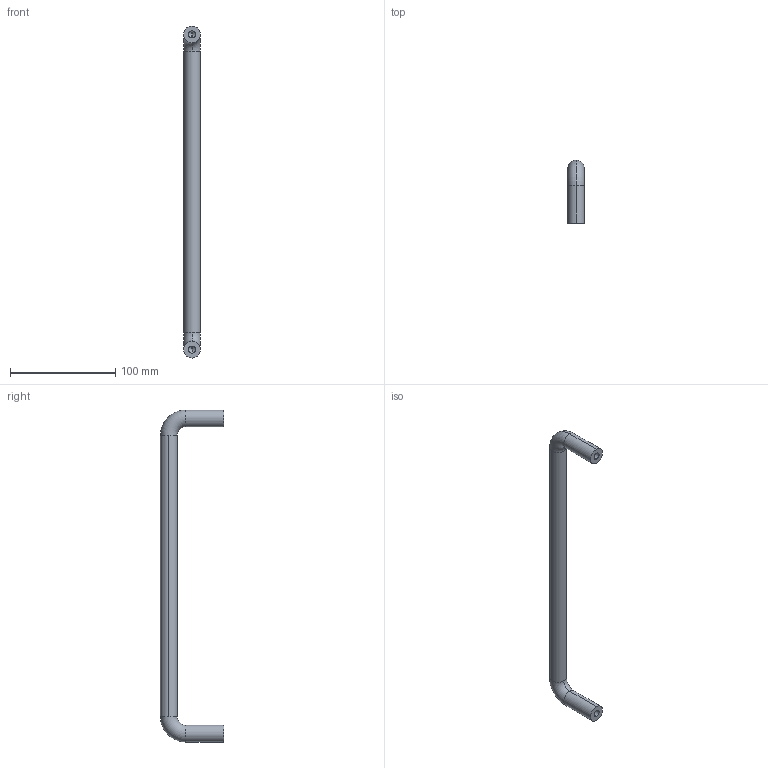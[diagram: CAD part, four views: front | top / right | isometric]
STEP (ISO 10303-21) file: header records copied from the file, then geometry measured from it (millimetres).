
FILE_DESCRIPTION (( 'STEP AP203' ), '1' );
FILE_NAME ('E03-163060.STEP', '2023-04-20T07:49:19', ( '' ), ( '' ), 'SwSTEP 2.0', 'SolidWorks 2021', '' );
FILE_SCHEMA (( 'CONFIG_CONTROL_DESIGN' ));
Length unit declared in the file: millimetre
Products named in the file (1): E03-163060
Bounding box: 16 x 60 x 316 mm (x, y, z)
Volume: 77328.6 mm3; surface area: 20672 mm2
Topology: 1 solids, 1 shells, 20 faces, 46 edges, 26 vertices
Faces by surface type: cylinder 10, torus 4, cone 4, plane 2
Entity records: 623 total; most frequent: DIRECTION 112, CARTESIAN_POINT 89, ORIENTED_EDGE 84, AXIS2_PLACEMENT_3D 49, EDGE_CURVE 42, CIRCLE 28, VERTEX_POINT 26, EDGE_LOOP 22
